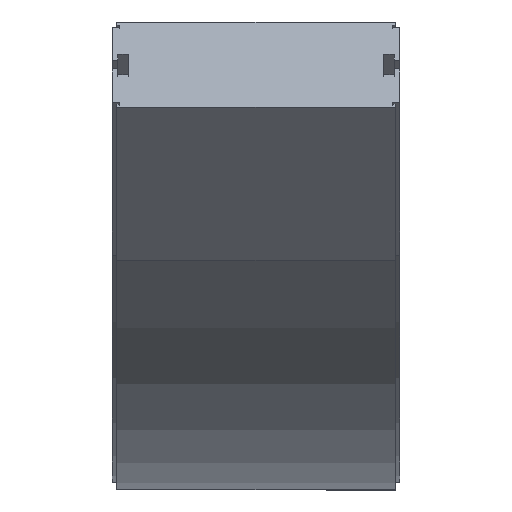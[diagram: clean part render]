
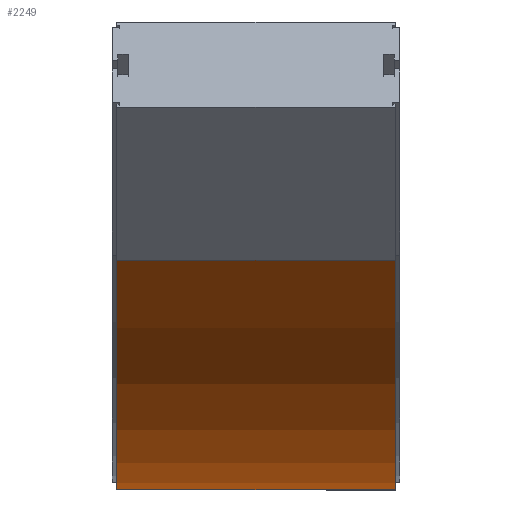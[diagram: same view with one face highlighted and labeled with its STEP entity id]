
A CAD part, top view. The second image highlights one B-rep face of the part: STEP entity #2249.
In plain terms, the highlighted cylindrical face has radius 542 mm (diameter 1084 mm), a partial arc.
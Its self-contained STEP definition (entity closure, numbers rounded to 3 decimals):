
#139 = CARTESIAN_POINT ( 'NONE',  ( -96.65, 500., 150. ) ) ;
#164 = VECTOR ( 'NONE', #1108, 1000. ) ;
#303 = ORIENTED_EDGE ( 'NONE', *, *, #2180, .F. ) ;
#326 = ORIENTED_EDGE ( 'NONE', *, *, #1250, .T. ) ;
#430 = DIRECTION ( 'NONE',  ( 0., 0., 1. ) ) ;
#445 = EDGE_CURVE ( 'NONE', #3008, #3096, #1130, .T. ) ;
#548 = AXIS2_PLACEMENT_3D ( 'NONE', #2110, #680, #430 ) ;
#680 = DIRECTION ( 'NONE',  ( -1., 0., 0. ) ) ;
#700 = CARTESIAN_POINT ( 'NONE',  ( 96.65, 500., 150. ) ) ;
#724 = DIRECTION ( 'NONE',  ( -1., 0., 0. ) ) ;
#894 = CARTESIAN_POINT ( 'NONE',  ( -96.65, -42., 150. ) ) ;
#945 = CIRCLE ( 'NONE', #2459, 542. ) ;
#1084 = CIRCLE ( 'NONE', #2756, 542. ) ;
#1093 = DIRECTION ( 'NONE',  ( -1., 0., 0. ) ) ;
#1108 = DIRECTION ( 'NONE',  ( -1., 0., 0. ) ) ;
#1130 = LINE ( 'NONE', #2321, #2042 ) ;
#1250 = EDGE_CURVE ( 'NONE', #3058, #3008, #1084, .T. ) ;
#1324 = CARTESIAN_POINT ( 'NONE',  ( -96.65, -42., 150. ) ) ;
#1564 = DIRECTION ( 'NONE',  ( 0., 0., 1. ) ) ;
#1715 = ORIENTED_EDGE ( 'NONE', *, *, #445, .T. ) ;
#1904 = DIRECTION ( 'NONE',  ( 0., 0., 1. ) ) ;
#1923 = LINE ( 'NONE', #1324, #164 ) ;
#2042 = VECTOR ( 'NONE', #1093, 1000. ) ;
#2073 = CARTESIAN_POINT ( 'NONE',  ( 96.65, -42., 150. ) ) ;
#2110 = CARTESIAN_POINT ( 'NONE',  ( 0., 500., 150. ) ) ;
#2114 = CARTESIAN_POINT ( 'NONE',  ( 96.65, 116.748, 533.252 ) ) ;
#2180 = EDGE_CURVE ( 'NONE', #3058, #2965, #1923, .T. ) ;
#2249 = ADVANCED_FACE ( 'NONE', ( #2801 ), #2423, .T. ) ;
#2284 = CARTESIAN_POINT ( 'NONE',  ( -96.65, 116.748, 533.252 ) ) ;
#2321 = CARTESIAN_POINT ( 'NONE',  ( -96.65, 116.748, 533.252 ) ) ;
#2423 = CYLINDRICAL_SURFACE ( 'NONE', #548, 542. ) ;
#2459 = AXIS2_PLACEMENT_3D ( 'NONE', #139, #2550, #1564 ) ;
#2473 = EDGE_LOOP ( 'NONE', ( #303, #326, #1715, #3024 ) ) ;
#2550 = DIRECTION ( 'NONE',  ( -1., 0., 0. ) ) ;
#2571 = EDGE_CURVE ( 'NONE', #2965, #3096, #945, .T. ) ;
#2756 = AXIS2_PLACEMENT_3D ( 'NONE', #700, #724, #1904 ) ;
#2801 = FACE_OUTER_BOUND ( 'NONE', #2473, .T. ) ;
#2965 = VERTEX_POINT ( 'NONE', #894 ) ;
#3008 = VERTEX_POINT ( 'NONE', #2114 ) ;
#3024 = ORIENTED_EDGE ( 'NONE', *, *, #2571, .F. ) ;
#3058 = VERTEX_POINT ( 'NONE', #2073 ) ;
#3096 = VERTEX_POINT ( 'NONE', #2284 ) ;
